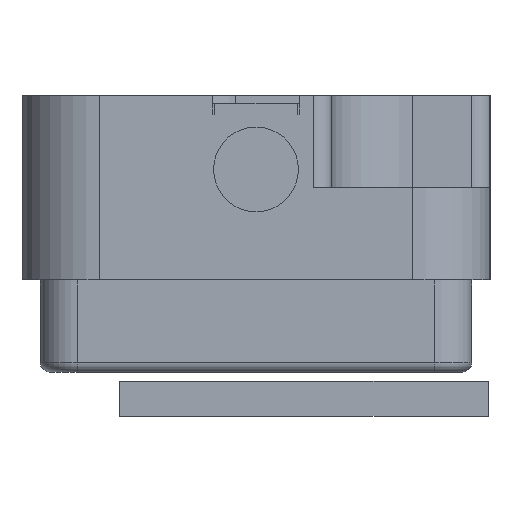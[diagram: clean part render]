
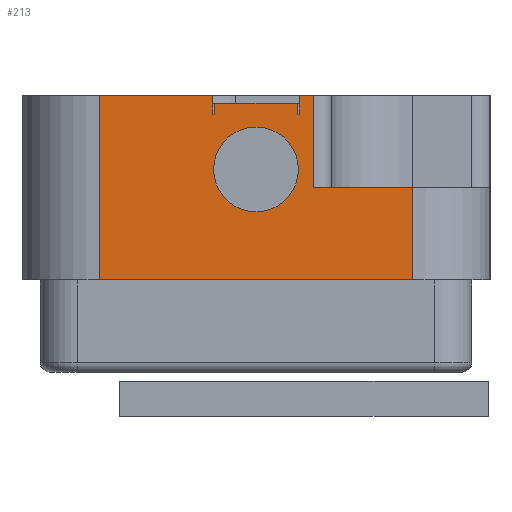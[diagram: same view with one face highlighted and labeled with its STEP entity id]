
A CAD part, left-side view. The second image highlights one B-rep face of the part: STEP entity #213.
In plain terms, the highlighted planar face has unit normal (-1, 0, 0).
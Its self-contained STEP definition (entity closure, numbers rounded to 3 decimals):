
#128=FACE_BOUND('',#435,.T.);
#129=FACE_BOUND('',#436,.T.);
#213=ADVANCED_FACE('',(#128,#129),#280,.F.);
#280=PLANE('',#1827);
#435=EDGE_LOOP('',(#766));
#436=EDGE_LOOP('',(#767,#768,#769,#770,#771,#772,#773,#774,#775,#776,#777,
#778,#779,#780));
#547=CIRCLE('',#1826,1.15);
#766=ORIENTED_EDGE('',*,*,#1321,.T.);
#767=ORIENTED_EDGE('',*,*,#1319,.F.);
#768=ORIENTED_EDGE('',*,*,#1322,.F.);
#769=ORIENTED_EDGE('',*,*,#1323,.T.);
#770=ORIENTED_EDGE('',*,*,#1324,.T.);
#771=ORIENTED_EDGE('',*,*,#1325,.T.);
#772=ORIENTED_EDGE('',*,*,#1197,.T.);
#773=ORIENTED_EDGE('',*,*,#1326,.T.);
#774=ORIENTED_EDGE('',*,*,#1327,.F.);
#775=ORIENTED_EDGE('',*,*,#1328,.F.);
#776=ORIENTED_EDGE('',*,*,#1213,.T.);
#777=ORIENTED_EDGE('',*,*,#1329,.T.);
#778=ORIENTED_EDGE('',*,*,#1330,.T.);
#779=ORIENTED_EDGE('',*,*,#1331,.F.);
#780=ORIENTED_EDGE('',*,*,#1290,.F.);
#1042=VERTEX_POINT('',#2404);
#1044=VERTEX_POINT('',#2407);
#1059=VERTEX_POINT('',#2437);
#1060=VERTEX_POINT('',#2439);
#1119=VERTEX_POINT('',#2587);
#1121=VERTEX_POINT('',#2592);
#1135=VERTEX_POINT('',#2651);
#1137=VERTEX_POINT('',#2658);
#1138=VERTEX_POINT('',#2660);
#1139=VERTEX_POINT('',#2662);
#1140=VERTEX_POINT('',#2664);
#1141=VERTEX_POINT('',#2667);
#1142=VERTEX_POINT('',#2669);
#1143=VERTEX_POINT('',#2672);
#1144=VERTEX_POINT('',#2674);
#1197=EDGE_CURVE('',#1044,#1042,#1431,.T.);
#1213=EDGE_CURVE('',#1060,#1059,#1441,.T.);
#1290=EDGE_CURVE('',#1121,#1119,#1486,.T.);
#1319=EDGE_CURVE('',#1135,#1121,#1501,.T.);
#1321=EDGE_CURVE('',#1137,#1137,#547,.T.);
#1322=EDGE_CURVE('',#1138,#1135,#1502,.T.);
#1323=EDGE_CURVE('',#1138,#1139,#1503,.T.);
#1324=EDGE_CURVE('',#1139,#1140,#1504,.T.);
#1325=EDGE_CURVE('',#1140,#1044,#1505,.T.);
#1326=EDGE_CURVE('',#1042,#1141,#1506,.T.);
#1327=EDGE_CURVE('',#1142,#1141,#1507,.T.);
#1328=EDGE_CURVE('',#1060,#1142,#1508,.T.);
#1329=EDGE_CURVE('',#1059,#1143,#1509,.T.);
#1330=EDGE_CURVE('',#1143,#1144,#1510,.T.);
#1331=EDGE_CURVE('',#1119,#1144,#1511,.T.);
#1431=LINE('',#2406,#1585);
#1441=LINE('',#2438,#1595);
#1486=LINE('',#2593,#1640);
#1501=LINE('',#2652,#1655);
#1502=LINE('',#2659,#1656);
#1503=LINE('',#2661,#1657);
#1504=LINE('',#2663,#1658);
#1505=LINE('',#2665,#1659);
#1506=LINE('',#2666,#1660);
#1507=LINE('',#2668,#1661);
#1508=LINE('',#2670,#1662);
#1509=LINE('',#2671,#1663);
#1510=LINE('',#2673,#1664);
#1511=LINE('',#2675,#1665);
#1585=VECTOR('',#1911,1.);
#1595=VECTOR('',#1933,1.);
#1640=VECTOR('',#2074,1.);
#1655=VECTOR('',#2149,1.);
#1656=VECTOR('',#2158,1.);
#1657=VECTOR('',#2159,1.);
#1658=VECTOR('',#2160,1.);
#1659=VECTOR('',#2161,1.);
#1660=VECTOR('',#2162,1.);
#1661=VECTOR('',#2163,1.);
#1662=VECTOR('',#2164,1.);
#1663=VECTOR('',#2165,1.);
#1664=VECTOR('',#2166,1.);
#1665=VECTOR('',#2167,1.);
#1826=AXIS2_PLACEMENT_3D('',#2657,#2156,#2157);
#1827=AXIS2_PLACEMENT_3D('',#2676,#2168,#2169);
#1911=DIRECTION('',(0.,1.,0.));
#1933=DIRECTION('',(0.,1.,0.));
#2074=DIRECTION('',(0.,1.,0.));
#2149=DIRECTION('',(0.,0.,-1.));
#2156=DIRECTION('',(1.,0.,0.));
#2157=DIRECTION('',(0.,1.,0.));
#2158=DIRECTION('',(0.,-1.,0.));
#2159=DIRECTION('',(0.,0.,1.));
#2160=DIRECTION('',(0.,1.,0.));
#2161=DIRECTION('',(0.,0.,-1.));
#2162=DIRECTION('',(0.,0.,1.));
#2163=DIRECTION('',(0.,-1.,0.));
#2164=DIRECTION('',(0.,0.,1.));
#2165=DIRECTION('',(0.,0.,1.));
#2166=DIRECTION('',(0.,1.,0.));
#2167=DIRECTION('',(0.,0.,1.));
#2168=DIRECTION('',(1.,0.,0.));
#2169=DIRECTION('',(0.,-1.,0.));
#2404=CARTESIAN_POINT('',(-84.444,-2.264,46.232));
#2406=CARTESIAN_POINT('',(-84.444,-1.139,46.232));
#2407=CARTESIAN_POINT('',(-84.444,-2.314,46.232));
#2437=CARTESIAN_POINT('',(-84.444,0.036,46.232));
#2438=CARTESIAN_POINT('',(-84.444,-1.139,46.232));
#2439=CARTESIAN_POINT('',(-84.444,-0.014,46.232));
#2587=CARTESIAN_POINT('',(-84.444,3.111,41.732));
#2592=CARTESIAN_POINT('',(-84.444,-5.389,41.732));
#2593=CARTESIAN_POINT('',(-84.444,-1.139,41.732));
#2651=CARTESIAN_POINT('',(-84.444,-5.389,44.232));
#2652=CARTESIAN_POINT('',(-84.444,-5.389,46.732));
#2657=CARTESIAN_POINT('',(-84.444,-1.139,44.732));
#2658=CARTESIAN_POINT('',(-84.444,0.011,44.732));
#2659=CARTESIAN_POINT('',(-84.444,-1.139,44.232));
#2660=CARTESIAN_POINT('',(-84.444,-2.689,44.232));
#2661=CARTESIAN_POINT('',(-84.444,-2.689,46.732));
#2662=CARTESIAN_POINT('',(-84.444,-2.689,46.732));
#2663=CARTESIAN_POINT('',(-84.444,-1.139,46.732));
#2664=CARTESIAN_POINT('',(-84.444,-2.314,46.732));
#2665=CARTESIAN_POINT('',(-84.444,-2.314,46.732));
#2666=CARTESIAN_POINT('',(-84.444,-2.264,46.232));
#2667=CARTESIAN_POINT('',(-84.444,-2.264,46.532));
#2668=CARTESIAN_POINT('',(-84.444,-5.989,46.532));
#2669=CARTESIAN_POINT('',(-84.444,-0.014,46.532));
#2670=CARTESIAN_POINT('',(-84.444,-0.014,46.232));
#2671=CARTESIAN_POINT('',(-84.444,0.036,46.732));
#2672=CARTESIAN_POINT('',(-84.444,0.036,46.732));
#2673=CARTESIAN_POINT('',(-84.444,-1.139,46.732));
#2674=CARTESIAN_POINT('',(-84.444,3.111,46.732));
#2675=CARTESIAN_POINT('',(-84.444,3.111,46.732));
#2676=CARTESIAN_POINT('',(-84.444,-1.139,46.732));
